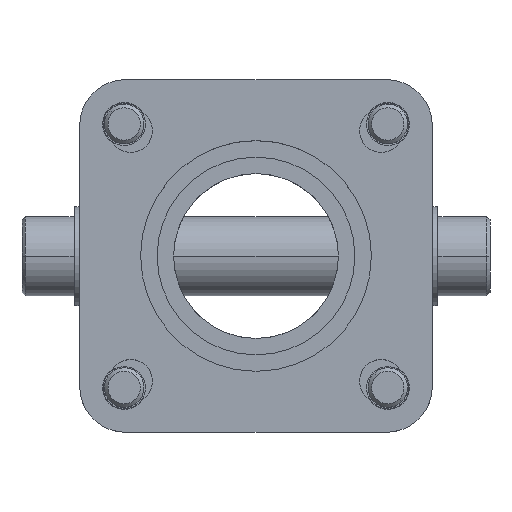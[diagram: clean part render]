
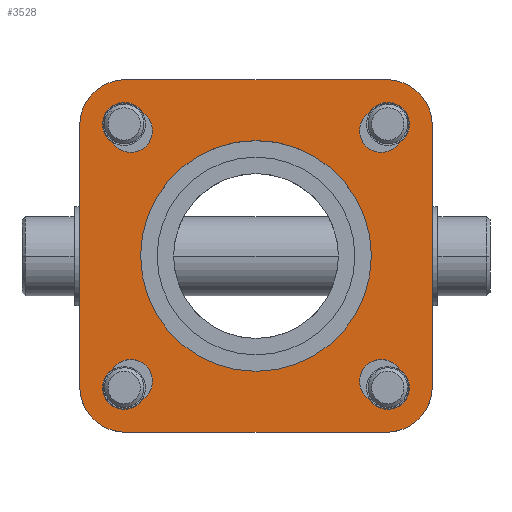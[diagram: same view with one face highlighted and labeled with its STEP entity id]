
A CAD part, top view. The second image highlights one B-rep face of the part: STEP entity #3528.
In plain terms, the highlighted planar face has unit normal (0, 0, 1).
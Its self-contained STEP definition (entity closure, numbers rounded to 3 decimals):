
#44=DIRECTION('',(0.,-1.,0.));
#45=VECTOR('',#44,39.5);
#46=CARTESIAN_POINT('',(-26.75,19.75,0.));
#47=LINE('',#46,#45);
#176=DIRECTION('',(0.,-1.,0.));
#177=VECTOR('',#176,39.5);
#178=CARTESIAN_POINT('',(26.75,19.75,0.));
#179=LINE('',#178,#177);
#213=CARTESIAN_POINT('',(19.75,-19.75,0.));
#214=DIRECTION('',(0.,0.,-1.));
#215=DIRECTION('',(1.,0.,0.));
#216=AXIS2_PLACEMENT_3D('',#213,#214,#215);
#226=DIRECTION('',(1.,0.,0.));
#227=VECTOR('',#226,39.5);
#228=CARTESIAN_POINT('',(-19.75,-26.75,0.));
#229=LINE('',#228,#227);
#251=CARTESIAN_POINT('',(-19.75,-19.75,0.));
#252=DIRECTION('',(0.,0.,1.));
#253=DIRECTION('',(-1.,0.,0.));
#254=AXIS2_PLACEMENT_3D('',#251,#252,#253);
#260=DIRECTION('',(1.,0.,0.));
#261=VECTOR('',#260,39.5);
#262=CARTESIAN_POINT('',(-19.75,26.75,0.));
#263=LINE('',#262,#261);
#264=DIRECTION('',(-0.707,-0.707,0.));
#265=VECTOR('',#264,1.4);
#266=CARTESIAN_POINT('',(22.323,17.657,0.));
#267=LINE('',#266,#265);
#268=CARTESIAN_POINT('',(19.99,19.99,0.));
#269=DIRECTION('',(0.,0.,-1.));
#270=DIRECTION('',(-0.707,0.707,0.));
#271=AXIS2_PLACEMENT_3D('',#268,#269,#270);
#273=DIRECTION('',(0.707,0.707,0.));
#274=VECTOR('',#273,1.4);
#275=CARTESIAN_POINT('',(16.667,21.333,0.));
#276=LINE('',#275,#274);
#277=CARTESIAN_POINT('',(19.,19.,0.));
#278=DIRECTION('',(0.,0.,-1.));
#279=DIRECTION('',(0.707,-0.707,0.));
#280=AXIS2_PLACEMENT_3D('',#277,#278,#279);
#282=DIRECTION('',(0.707,-0.707,0.));
#283=VECTOR('',#282,1.4);
#284=CARTESIAN_POINT('',(-22.323,17.657,0.));
#285=LINE('',#284,#283);
#286=CARTESIAN_POINT('',(-19.,19.,0.));
#287=DIRECTION('',(0.,0.,1.));
#288=DIRECTION('',(-0.707,-0.707,0.));
#289=AXIS2_PLACEMENT_3D('',#286,#287,#288);
#291=DIRECTION('',(-0.707,0.707,0.));
#292=VECTOR('',#291,1.4);
#293=CARTESIAN_POINT('',(-16.667,21.333,0.));
#294=LINE('',#293,#292);
#295=CARTESIAN_POINT('',(-19.99,19.99,0.));
#296=DIRECTION('',(0.,0.,1.));
#297=DIRECTION('',(0.707,0.707,0.));
#298=AXIS2_PLACEMENT_3D('',#295,#296,#297);
#300=DIRECTION('',(-0.707,0.707,0.));
#301=VECTOR('',#300,1.4);
#302=CARTESIAN_POINT('',(22.323,-17.657,0.));
#303=LINE('',#302,#301);
#304=CARTESIAN_POINT('',(19.,-19.,0.));
#305=DIRECTION('',(0.,0.,1.));
#306=DIRECTION('',(0.707,0.707,0.));
#307=AXIS2_PLACEMENT_3D('',#304,#305,#306);
#309=DIRECTION('',(0.707,-0.707,0.));
#310=VECTOR('',#309,1.4);
#311=CARTESIAN_POINT('',(16.667,-21.333,0.));
#312=LINE('',#311,#310);
#313=CARTESIAN_POINT('',(19.99,-19.99,0.));
#314=DIRECTION('',(0.,0.,1.));
#315=DIRECTION('',(-0.707,-0.707,0.));
#316=AXIS2_PLACEMENT_3D('',#313,#314,#315);
#318=DIRECTION('',(0.707,0.707,0.));
#319=VECTOR('',#318,1.4);
#320=CARTESIAN_POINT('',(-22.323,-17.657,0.));
#321=LINE('',#320,#319);
#322=CARTESIAN_POINT('',(-19.99,-19.99,0.));
#323=DIRECTION('',(0.,0.,-1.));
#324=DIRECTION('',(0.707,-0.707,0.));
#325=AXIS2_PLACEMENT_3D('',#322,#323,#324);
#327=DIRECTION('',(-0.707,-0.707,0.));
#328=VECTOR('',#327,1.4);
#329=CARTESIAN_POINT('',(-16.667,-21.333,0.));
#330=LINE('',#329,#328);
#331=CARTESIAN_POINT('',(-19.,-19.,0.));
#332=DIRECTION('',(0.,0.,-1.));
#333=DIRECTION('',(-0.707,0.707,0.));
#334=AXIS2_PLACEMENT_3D('',#331,#332,#333);
#336=CARTESIAN_POINT('',(0.,0.,0.));
#337=DIRECTION('',(0.,0.,1.));
#338=DIRECTION('',(1.,0.,0.));
#339=AXIS2_PLACEMENT_3D('',#336,#337,#338);
#341=CARTESIAN_POINT('',(0.,0.,0.));
#342=DIRECTION('',(0.,0.,1.));
#343=DIRECTION('',(-1.,0.,0.));
#344=AXIS2_PLACEMENT_3D('',#341,#342,#343);
#355=CARTESIAN_POINT('',(-19.75,19.75,0.));
#356=DIRECTION('',(0.,0.,-1.));
#357=DIRECTION('',(-1.,0.,0.));
#358=AXIS2_PLACEMENT_3D('',#355,#356,#357);
#1421=CARTESIAN_POINT('',(19.75,19.75,0.));
#1422=DIRECTION('',(0.,0.,1.));
#1423=DIRECTION('',(1.,0.,0.));
#1424=AXIS2_PLACEMENT_3D('',#1421,#1422,#1423);
#2510=CARTESIAN_POINT('',(26.75,19.75,0.));
#2511=CARTESIAN_POINT('',(19.75,26.75,0.));
#2512=VERTEX_POINT('',#2510);
#2513=VERTEX_POINT('',#2511);
#2514=CARTESIAN_POINT('',(26.75,-19.75,0.));
#2515=CARTESIAN_POINT('',(19.75,-26.75,0.));
#2516=VERTEX_POINT('',#2514);
#2517=VERTEX_POINT('',#2515);
#2518=CARTESIAN_POINT('',(-26.75,-19.75,0.));
#2519=CARTESIAN_POINT('',(-19.75,-26.75,0.));
#2520=VERTEX_POINT('',#2518);
#2521=VERTEX_POINT('',#2519);
#2522=CARTESIAN_POINT('',(-26.75,19.75,0.));
#2523=CARTESIAN_POINT('',(-19.75,26.75,0.));
#2524=VERTEX_POINT('',#2522);
#2525=VERTEX_POINT('',#2523);
#2682=CARTESIAN_POINT('',(22.323,17.657,0.));
#2683=CARTESIAN_POINT('',(21.333,16.667,0.));
#2684=VERTEX_POINT('',#2682);
#2685=VERTEX_POINT('',#2683);
#2686=CARTESIAN_POINT('',(16.667,21.333,0.));
#2687=VERTEX_POINT('',#2686);
#2688=CARTESIAN_POINT('',(17.657,22.323,0.));
#2689=VERTEX_POINT('',#2688);
#2698=CARTESIAN_POINT('',(-22.323,17.657,0.));
#2699=CARTESIAN_POINT('',(-21.333,16.667,0.));
#2700=VERTEX_POINT('',#2698);
#2701=VERTEX_POINT('',#2699);
#2702=CARTESIAN_POINT('',(-16.667,21.333,0.));
#2703=VERTEX_POINT('',#2702);
#2704=CARTESIAN_POINT('',(-17.657,22.323,0.));
#2705=VERTEX_POINT('',#2704);
#2722=CARTESIAN_POINT('',(22.323,-17.657,0.));
#2723=CARTESIAN_POINT('',(21.333,-16.667,0.));
#2724=VERTEX_POINT('',#2722);
#2725=VERTEX_POINT('',#2723);
#2726=CARTESIAN_POINT('',(16.667,-21.333,0.));
#2727=VERTEX_POINT('',#2726);
#2728=CARTESIAN_POINT('',(17.657,-22.323,0.));
#2729=VERTEX_POINT('',#2728);
#2730=CARTESIAN_POINT('',(-22.323,-17.657,0.));
#2731=CARTESIAN_POINT('',(-21.333,-16.667,0.));
#2732=VERTEX_POINT('',#2730);
#2733=VERTEX_POINT('',#2731);
#2734=CARTESIAN_POINT('',(-16.667,-21.333,0.));
#2735=VERTEX_POINT('',#2734);
#2736=CARTESIAN_POINT('',(-17.657,-22.323,0.));
#2737=VERTEX_POINT('',#2736);
#2742=CARTESIAN_POINT('',(17.5,0.,0.));
#2743=CARTESIAN_POINT('',(-17.5,0.,0.));
#2744=VERTEX_POINT('',#2742);
#2745=VERTEX_POINT('',#2743);
#3464=CARTESIAN_POINT('',(-26.75,26.75,0.));
#3465=DIRECTION('',(0.,0.,1.));
#3466=DIRECTION('',(0.,-1.,0.));
#3467=AXIS2_PLACEMENT_3D('',#3464,#3465,#3466);
#3468=PLANE('',#3467);
#3469=ORIENTED_EDGE('',*,*,#3257,.F.);
#3471=ORIENTED_EDGE('',*,*,#3470,.T.);
#3473=ORIENTED_EDGE('',*,*,#3472,.T.);
#3475=ORIENTED_EDGE('',*,*,#3474,.F.);
#3476=ORIENTED_EDGE('',*,*,#3398,.T.);
#3477=ORIENTED_EDGE('',*,*,#3424,.T.);
#3478=ORIENTED_EDGE('',*,*,#3438,.F.);
#3479=ORIENTED_EDGE('',*,*,#3458,.F.);
#3480=EDGE_LOOP('',(#3469,#3471,#3473,#3475,#3476,#3477,#3478,#3479));
#3481=FACE_OUTER_BOUND('',#3480,.F.);
#3483=ORIENTED_EDGE('',*,*,#3482,.F.);
#3485=ORIENTED_EDGE('',*,*,#3484,.F.);
#3487=ORIENTED_EDGE('',*,*,#3486,.F.);
#3489=ORIENTED_EDGE('',*,*,#3488,.F.);
#3490=EDGE_LOOP('',(#3483,#3485,#3487,#3489));
#3491=FACE_BOUND('',#3490,.F.);
#3493=ORIENTED_EDGE('',*,*,#3492,.T.);
#3495=ORIENTED_EDGE('',*,*,#3494,.T.);
#3497=ORIENTED_EDGE('',*,*,#3496,.T.);
#3499=ORIENTED_EDGE('',*,*,#3498,.T.);
#3500=EDGE_LOOP('',(#3493,#3495,#3497,#3499));
#3501=FACE_BOUND('',#3500,.F.);
#3503=ORIENTED_EDGE('',*,*,#3502,.T.);
#3505=ORIENTED_EDGE('',*,*,#3504,.T.);
#3507=ORIENTED_EDGE('',*,*,#3506,.T.);
#3509=ORIENTED_EDGE('',*,*,#3508,.T.);
#3510=EDGE_LOOP('',(#3503,#3505,#3507,#3509));
#3511=FACE_BOUND('',#3510,.F.);
#3513=ORIENTED_EDGE('',*,*,#3512,.F.);
#3515=ORIENTED_EDGE('',*,*,#3514,.F.);
#3517=ORIENTED_EDGE('',*,*,#3516,.F.);
#3519=ORIENTED_EDGE('',*,*,#3518,.F.);
#3520=EDGE_LOOP('',(#3513,#3515,#3517,#3519));
#3521=FACE_BOUND('',#3520,.F.);
#3523=ORIENTED_EDGE('',*,*,#3522,.T.);
#3525=ORIENTED_EDGE('',*,*,#3524,.T.);
#3526=EDGE_LOOP('',(#3523,#3525));
#3527=FACE_BOUND('',#3526,.F.);
#3528=ADVANCED_FACE('',(#3481,#3491,#3501,#3511,#3521,#3527),#3468,.T.);
#217=CIRCLE('',#216,7.);
#255=CIRCLE('',#254,7.);
#272=CIRCLE('',#271,3.3);
#281=CIRCLE('',#280,3.3);
#290=CIRCLE('',#289,3.3);
#299=CIRCLE('',#298,3.3);
#308=CIRCLE('',#307,3.3);
#317=CIRCLE('',#316,3.3);
#326=CIRCLE('',#325,3.3);
#335=CIRCLE('',#334,3.3);
#340=CIRCLE('',#339,17.5);
#345=CIRCLE('',#344,17.5);
#359=CIRCLE('',#358,7.);
#1425=CIRCLE('',#1424,7.);
#3257=EDGE_CURVE('',#2524,#2520,#47,.T.);
#3398=EDGE_CURVE('',#2512,#2516,#179,.T.);
#3424=EDGE_CURVE('',#2516,#2517,#217,.T.);
#3438=EDGE_CURVE('',#2521,#2517,#229,.T.);
#3458=EDGE_CURVE('',#2520,#2521,#255,.T.);
#3470=EDGE_CURVE('',#2524,#2525,#359,.T.);
#3472=EDGE_CURVE('',#2525,#2513,#263,.T.);
#3474=EDGE_CURVE('',#2512,#2513,#1425,.T.);
#3482=EDGE_CURVE('',#2684,#2685,#267,.T.);
#3484=EDGE_CURVE('',#2689,#2684,#272,.T.);
#3486=EDGE_CURVE('',#2687,#2689,#276,.T.);
#3488=EDGE_CURVE('',#2685,#2687,#281,.T.);
#3492=EDGE_CURVE('',#2700,#2701,#285,.T.);
#3494=EDGE_CURVE('',#2701,#2703,#290,.T.);
#3496=EDGE_CURVE('',#2703,#2705,#294,.T.);
#3498=EDGE_CURVE('',#2705,#2700,#299,.T.);
#3502=EDGE_CURVE('',#2724,#2725,#303,.T.);
#3504=EDGE_CURVE('',#2725,#2727,#308,.T.);
#3506=EDGE_CURVE('',#2727,#2729,#312,.T.);
#3508=EDGE_CURVE('',#2729,#2724,#317,.T.);
#3512=EDGE_CURVE('',#2732,#2733,#321,.T.);
#3514=EDGE_CURVE('',#2737,#2732,#326,.T.);
#3516=EDGE_CURVE('',#2735,#2737,#330,.T.);
#3518=EDGE_CURVE('',#2733,#2735,#335,.T.);
#3522=EDGE_CURVE('',#2744,#2745,#340,.T.);
#3524=EDGE_CURVE('',#2745,#2744,#345,.T.);
